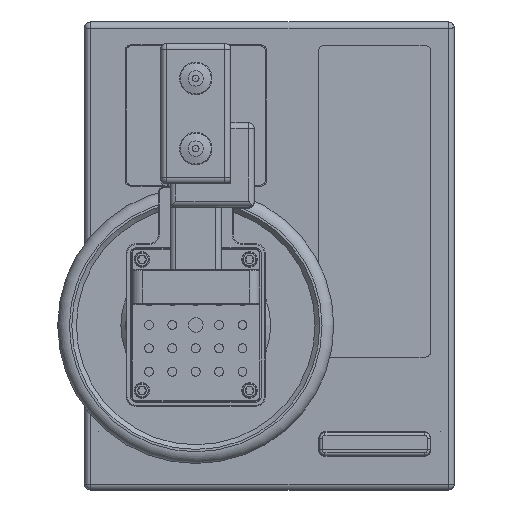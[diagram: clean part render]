
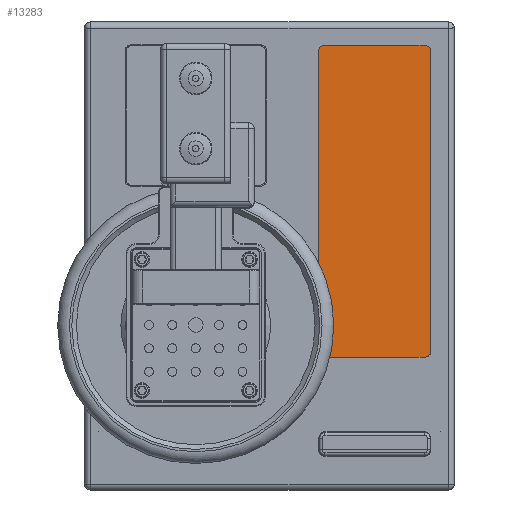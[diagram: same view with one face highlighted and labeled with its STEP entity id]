
A CAD part, top view. The second image highlights one B-rep face of the part: STEP entity #13283.
In plain terms, the highlighted planar face has unit normal (0, 0, 1).
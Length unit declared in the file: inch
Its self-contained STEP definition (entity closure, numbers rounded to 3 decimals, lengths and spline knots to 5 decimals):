
#12302=CARTESIAN_POINT('',(51.94132,48.07461,13.758));
#12303=VERTEX_POINT('',#12302);
#12318=CARTESIAN_POINT('',(51.94132,54.48461,13.758));
#12319=VERTEX_POINT('',#12318);
#12326=CARTESIAN_POINT('',(51.94132,54.48461,13.758));
#12327=DIRECTION('',(0.0,-1.0,0.0));
#12328=VECTOR('',#12327,6.41);
#12329=LINE('',#12326,#12328);
#12330=EDGE_CURVE('',#12319,#12303,#12329,.T.);
#13166=CARTESIAN_POINT('',(49.66632,54.60961,13.758));
#13167=VERTEX_POINT('',#13166);
#13168=CARTESIAN_POINT('',(49.54132,54.48461,13.758));
#13169=VERTEX_POINT('',#13168);
#13170=CARTESIAN_POINT('',(49.66632,54.48461,13.758));
#13171=DIRECTION('',(0.,0.,1.));
#13172=DIRECTION('',(-0.707,0.707,0.));
#13173=AXIS2_PLACEMENT_3D('',#13170,#13171,#13172);
#13174=CIRCLE('',#13173,0.125);
#13175=EDGE_CURVE('',#13167,#13169,#13174,.T.);
#13210=CARTESIAN_POINT('',(51.81632,54.60961,13.758));
#13211=VERTEX_POINT('',#13210);
#13225=CARTESIAN_POINT('',(49.66632,54.60961,13.758));
#13226=DIRECTION('',(1.0,0.0,0.0));
#13227=VECTOR('',#13226,2.15);
#13228=LINE('',#13225,#13227);
#13229=EDGE_CURVE('',#13167,#13211,#13228,.T.);
#13234=CARTESIAN_POINT('',(50.74132,51.27961,13.758));
#13235=DIRECTION('',(0.0,0.0,1.0));
#13236=DIRECTION('',(1.0,0.0,0.0));
#13237=AXIS2_PLACEMENT_3D('',#13234,#13235,#13236);
#13238=PLANE('',#13237);
#13239=CARTESIAN_POINT('',(51.81632,47.94961,13.758));
#13240=VERTEX_POINT('',#13239);
#13241=CARTESIAN_POINT('',(51.81632,48.07461,13.758));
#13242=DIRECTION('',(0.,0.,1.));
#13243=DIRECTION('',(0.707,-0.707,0.));
#13244=AXIS2_PLACEMENT_3D('',#13241,#13242,#13243);
#13245=CIRCLE('',#13244,0.125);
#13246=EDGE_CURVE('',#13240,#12303,#13245,.T.);
#13247=ORIENTED_EDGE('',*,*,#13246,.T.);
#13248=ORIENTED_EDGE('',*,*,#12330,.F.);
#13249=CARTESIAN_POINT('',(51.81632,54.48461,13.758));
#13250=DIRECTION('',(0.,0.,1.));
#13251=DIRECTION('',(0.707,0.707,0.));
#13252=AXIS2_PLACEMENT_3D('',#13249,#13250,#13251);
#13253=CIRCLE('',#13252,0.125);
#13254=EDGE_CURVE('',#12319,#13211,#13253,.T.);
#13255=ORIENTED_EDGE('',*,*,#13254,.T.);
#13256=ORIENTED_EDGE('',*,*,#13229,.F.);
#13257=ORIENTED_EDGE('',*,*,#13175,.T.);
#13258=CARTESIAN_POINT('',(49.54132,48.07461,13.758));
#13259=VERTEX_POINT('',#13258);
#13260=CARTESIAN_POINT('',(49.54132,48.07461,13.758));
#13261=DIRECTION('',(0.0,1.0,0.0));
#13262=VECTOR('',#13261,6.41);
#13263=LINE('',#13260,#13262);
#13264=EDGE_CURVE('',#13259,#13169,#13263,.T.);
#13265=ORIENTED_EDGE('',*,*,#13264,.F.);
#13266=CARTESIAN_POINT('',(49.66632,47.94961,13.758));
#13267=VERTEX_POINT('',#13266);
#13268=CARTESIAN_POINT('',(49.66632,48.07461,13.758));
#13269=DIRECTION('',(0.,0.,1.));
#13270=DIRECTION('',(-0.707,-0.707,0.));
#13271=AXIS2_PLACEMENT_3D('',#13268,#13269,#13270);
#13272=CIRCLE('',#13271,0.125);
#13273=EDGE_CURVE('',#13259,#13267,#13272,.T.);
#13274=ORIENTED_EDGE('',*,*,#13273,.T.);
#13275=CARTESIAN_POINT('',(51.81632,47.94961,13.758));
#13276=DIRECTION('',(-1.0,0.0,0.0));
#13277=VECTOR('',#13276,2.15);
#13278=LINE('',#13275,#13277);
#13279=EDGE_CURVE('',#13240,#13267,#13278,.T.);
#13280=ORIENTED_EDGE('',*,*,#13279,.F.);
#13281=EDGE_LOOP('',(#13247,#13248,#13255,#13256,#13257,#13265,#13274,#13280));
#13282=FACE_OUTER_BOUND('',#13281,.T.);
#13283=ADVANCED_FACE('',(#13282),#13238,.T.);
